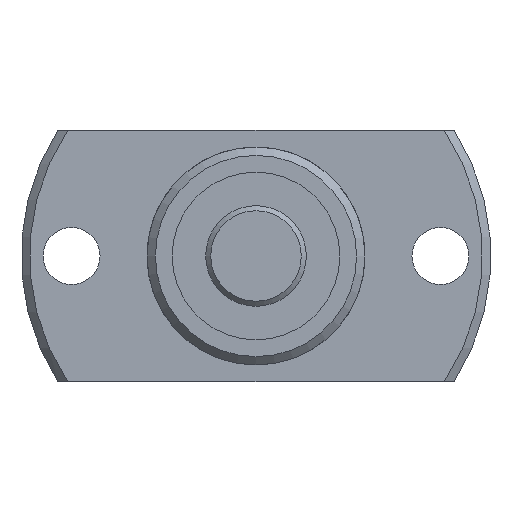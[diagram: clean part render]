
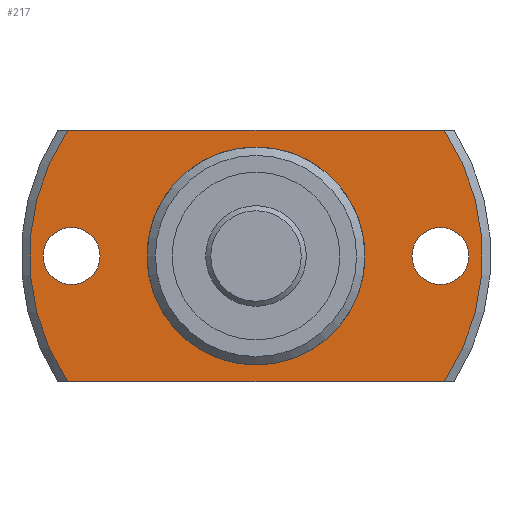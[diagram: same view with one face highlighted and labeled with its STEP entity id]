
A CAD part, left-side view. The second image highlights one B-rep face of the part: STEP entity #217.
In plain terms, the highlighted planar face has unit normal (-1, 0, 0).
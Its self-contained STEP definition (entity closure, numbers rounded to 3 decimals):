
#217 = ADVANCED_FACE( '', ( #366, #367, #368, #369 ), #370, .F. );
#366 = FACE_OUTER_BOUND( '', #544, .T. );
#367 = FACE_BOUND( '', #545, .T. );
#368 = FACE_BOUND( '', #546, .T. );
#369 = FACE_BOUND( '', #547, .T. );
#370 = PLANE( '', #548 );
#544 = EDGE_LOOP( '', ( #922, #923, #924, #925 ) );
#545 = EDGE_LOOP( '', ( #926 ) );
#546 = EDGE_LOOP( '', ( #927 ) );
#547 = EDGE_LOOP( '', ( #928 ) );
#548 = AXIS2_PLACEMENT_3D( '', #929, #930, #931 );
#922 = ORIENTED_EDGE( '', *, *, #1128, .F. );
#923 = ORIENTED_EDGE( '', *, *, #1187, .T. );
#924 = ORIENTED_EDGE( '', *, *, #1198, .F. );
#925 = ORIENTED_EDGE( '', *, *, #1122, .T. );
#926 = ORIENTED_EDGE( '', *, *, #1183, .T. );
#927 = ORIENTED_EDGE( '', *, *, #1181, .T. );
#928 = ORIENTED_EDGE( '', *, *, #1199, .T. );
#929 = CARTESIAN_POINT( '', ( 13., 6.3, 0. ) );
#930 = DIRECTION( '', ( 1., 0., 0. ) );
#931 = DIRECTION( '', ( 0., 0., -1. ) );
#1122 = EDGE_CURVE( '', #1288, #1286, #1289, .T. );
#1128 = EDGE_CURVE( '', #1299, #1286, #1300, .T. );
#1181 = EDGE_CURVE( '', #1394, #1394, #1395, .T. );
#1183 = EDGE_CURVE( '', #1398, #1398, #1399, .T. );
#1187 = EDGE_CURVE( '', #1299, #1405, #1407, .T. );
#1198 = EDGE_CURVE( '', #1288, #1405, #1422, .T. );
#1199 = EDGE_CURVE( '', #1423, #1423, #1424, .T. );
#1286 = VERTEX_POINT( '', #1543 );
#1288 = VERTEX_POINT( '', #1548 );
#1289 = LINE( '', #1549, #1550 );
#1299 = VERTEX_POINT( '', #1571 );
#1300 = CIRCLE( '', #1572, 13.5 );
#1394 = VERTEX_POINT( '', #1729 );
#1395 = CIRCLE( '', #1730, 1.7 );
#1398 = VERTEX_POINT( '', #1733 );
#1399 = CIRCLE( '', #1734, 1.7 );
#1405 = VERTEX_POINT( '', #1741 );
#1407 = LINE( '', #1746, #1747 );
#1422 = CIRCLE( '', #1770, 13.5 );
#1423 = VERTEX_POINT( '', #1771 );
#1424 = CIRCLE( '', #1772, 6.3 );
#1543 = CARTESIAN_POINT( '', ( 13., 11.225, 7.5 ) );
#1548 = CARTESIAN_POINT( '', ( 13., -11.225, 7.5 ) );
#1549 = CARTESIAN_POINT( '', ( 13., 6.3, 7.5 ) );
#1550 = VECTOR( '', #1924, 1000. );
#1571 = CARTESIAN_POINT( '', ( 13., 11.225, -7.5 ) );
#1572 = AXIS2_PLACEMENT_3D( '', #1927, #1928, #1929 );
#1729 = CARTESIAN_POINT( '', ( 13., -11., -1.7 ) );
#1730 = AXIS2_PLACEMENT_3D( '', #2021, #2022, #2023 );
#1733 = CARTESIAN_POINT( '', ( 13., 11., -1.7 ) );
#1734 = AXIS2_PLACEMENT_3D( '', #2027, #2028, #2029 );
#1741 = CARTESIAN_POINT( '', ( 13., -11.225, -7.5 ) );
#1746 = CARTESIAN_POINT( '', ( 13., 6.3, -7.5 ) );
#1747 = VECTOR( '', #2034, 1000. );
#1770 = AXIS2_PLACEMENT_3D( '', #2055, #2056, #2057 );
#1771 = CARTESIAN_POINT( '', ( 13., 0., -6.3 ) );
#1772 = AXIS2_PLACEMENT_3D( '', #2058, #2059, #2060 );
#1924 = DIRECTION( '', ( 0., 1., 0. ) );
#1927 = CARTESIAN_POINT( '', ( 13., 0., 0. ) );
#1928 = DIRECTION( '', ( 1., 0., 0. ) );
#1929 = DIRECTION( '', ( 0., 0., -1. ) );
#2021 = CARTESIAN_POINT( '', ( 13., -11., 0. ) );
#2022 = DIRECTION( '', ( 1., 0., 0. ) );
#2023 = DIRECTION( '', ( 0., 0., -1. ) );
#2027 = CARTESIAN_POINT( '', ( 13., 11., 0. ) );
#2028 = DIRECTION( '', ( 1., 0., 0. ) );
#2029 = DIRECTION( '', ( 0., 0., -1. ) );
#2034 = DIRECTION( '', ( 0., -1., 0. ) );
#2055 = CARTESIAN_POINT( '', ( 13., 0., 0. ) );
#2056 = DIRECTION( '', ( 1., 0., 0. ) );
#2057 = DIRECTION( '', ( 0., 0., -1. ) );
#2058 = CARTESIAN_POINT( '', ( 13., 0., 0. ) );
#2059 = DIRECTION( '', ( 1., 0., 0. ) );
#2060 = DIRECTION( '', ( 0., 0., -1. ) );
